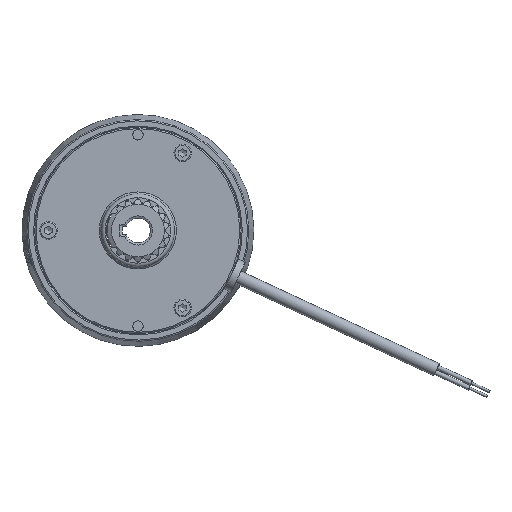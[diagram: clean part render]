
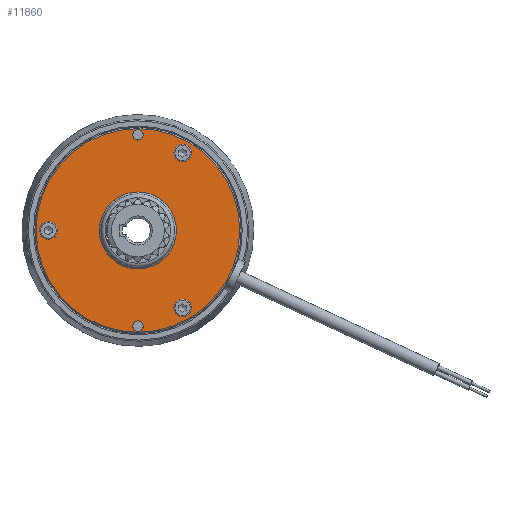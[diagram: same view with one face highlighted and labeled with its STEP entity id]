
A CAD part, left-side view. The second image highlights one B-rep face of the part: STEP entity #11860.
In plain terms, the highlighted planar face has unit normal (-1, 0, 0).
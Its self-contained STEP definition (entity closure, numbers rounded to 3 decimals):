
#181=FACE_BOUND('',#1567,.T.);
#182=FACE_BOUND('',#1568,.T.);
#183=FACE_BOUND('',#1569,.T.);
#184=FACE_BOUND('',#1570,.T.);
#185=FACE_BOUND('',#1571,.T.);
#186=FACE_BOUND('',#1572,.T.);
#454=PLANE('',#12908);
#939=FACE_OUTER_BOUND('',#1566,.T.);
#1566=EDGE_LOOP('',(#9828));
#1567=EDGE_LOOP('',(#9829,#9830));
#1568=EDGE_LOOP('',(#9831,#9832));
#1569=EDGE_LOOP('',(#9833));
#1570=EDGE_LOOP('',(#9834));
#1571=EDGE_LOOP('',(#9835));
#1572=EDGE_LOOP('',(#9836,#9837));
#2367=CIRCLE('',#12512,3.5);
#2368=CIRCLE('',#12513,3.5);
#2381=CIRCLE('',#12540,3.5);
#2382=CIRCLE('',#12541,3.5);
#2596=CIRCLE('',#12909,41.);
#2597=CIRCLE('',#12910,2.1);
#2598=CIRCLE('',#12911,2.1);
#2599=CIRCLE('',#12912,15.5);
#2600=CIRCLE('',#12913,3.5);
#2601=CIRCLE('',#12914,3.5);
#4662=VERTEX_POINT('',#21653);
#4663=VERTEX_POINT('',#21654);
#4689=VERTEX_POINT('',#21745);
#4690=VERTEX_POINT('',#21746);
#5073=VERTEX_POINT('',#25084);
#5074=VERTEX_POINT('',#25086);
#5075=VERTEX_POINT('',#25088);
#5076=VERTEX_POINT('',#25090);
#5077=VERTEX_POINT('',#25092);
#5078=VERTEX_POINT('',#25093);
#6099=EDGE_CURVE('',#4662,#4663,#2367,.T.);
#6100=EDGE_CURVE('',#4663,#4662,#2368,.T.);
#6136=EDGE_CURVE('',#4689,#4690,#2381,.T.);
#6137=EDGE_CURVE('',#4690,#4689,#2382,.T.);
#6713=EDGE_CURVE('',#5073,#5073,#2596,.T.);
#6714=EDGE_CURVE('',#5074,#5074,#2597,.T.);
#6715=EDGE_CURVE('',#5075,#5075,#2598,.T.);
#6716=EDGE_CURVE('',#5076,#5076,#2599,.T.);
#6717=EDGE_CURVE('',#5077,#5078,#2600,.T.);
#6718=EDGE_CURVE('',#5078,#5077,#2601,.T.);
#9828=ORIENTED_EDGE('',*,*,#6713,.F.);
#9829=ORIENTED_EDGE('',*,*,#6099,.T.);
#9830=ORIENTED_EDGE('',*,*,#6100,.T.);
#9831=ORIENTED_EDGE('',*,*,#6136,.T.);
#9832=ORIENTED_EDGE('',*,*,#6137,.T.);
#9833=ORIENTED_EDGE('',*,*,#6714,.T.);
#9834=ORIENTED_EDGE('',*,*,#6715,.T.);
#9835=ORIENTED_EDGE('',*,*,#6716,.T.);
#9836=ORIENTED_EDGE('',*,*,#6717,.T.);
#9837=ORIENTED_EDGE('',*,*,#6718,.T.);
#11860=ADVANCED_FACE('',(#939,#181,#182,#183,#184,#185,#186),#454,.T.);
#12512=AXIS2_PLACEMENT_3D('',#21655,#14475,#14476);
#12513=AXIS2_PLACEMENT_3D('',#21656,#14477,#14478);
#12540=AXIS2_PLACEMENT_3D('',#21747,#14547,#14548);
#12541=AXIS2_PLACEMENT_3D('',#21748,#14549,#14550);
#12908=AXIS2_PLACEMENT_3D('',#25083,#15514,#15515);
#12909=AXIS2_PLACEMENT_3D('',#25085,#15516,#15517);
#12910=AXIS2_PLACEMENT_3D('',#25087,#15518,#15519);
#12911=AXIS2_PLACEMENT_3D('',#25089,#15520,#15521);
#12912=AXIS2_PLACEMENT_3D('',#25091,#15522,#15523);
#12913=AXIS2_PLACEMENT_3D('',#25094,#15524,#15525);
#12914=AXIS2_PLACEMENT_3D('',#25095,#15526,#15527);
#14475=DIRECTION('center_axis',(1.,0.,0.));
#14476=DIRECTION('ref_axis',(0.,0.5,-0.866));
#14477=DIRECTION('center_axis',(1.,0.,0.));
#14478=DIRECTION('ref_axis',(0.,0.5,-0.866));
#14547=DIRECTION('center_axis',(1.,0.,0.));
#14548=DIRECTION('ref_axis',(0.,0.5,-0.866));
#14549=DIRECTION('center_axis',(1.,0.,0.));
#14550=DIRECTION('ref_axis',(0.,0.5,-0.866));
#15514=DIRECTION('center_axis',(-1.,0.,0.));
#15515=DIRECTION('ref_axis',(0.,0.,1.));
#15516=DIRECTION('center_axis',(1.,0.,0.));
#15517=DIRECTION('ref_axis',(0.,-1.,0.));
#15518=DIRECTION('center_axis',(1.,0.,0.));
#15519=DIRECTION('ref_axis',(0.,0.,
-1.));
#15520=DIRECTION('center_axis',(1.,0.,0.));
#15521=DIRECTION('ref_axis',(0.,0.,
-1.));
#15522=DIRECTION('center_axis',(1.,0.,0.));
#15523=DIRECTION('ref_axis',(0.,0.,1.));
#15524=DIRECTION('center_axis',(1.,0.,0.));
#15525=DIRECTION('ref_axis',(0.,0.5,0.866));
#15526=DIRECTION('center_axis',(1.,0.,0.));
#15527=DIRECTION('ref_axis',(0.,0.5,0.866));
#21653=CARTESIAN_POINT('',(-18.7,-16.25,-34.208));
#21654=CARTESIAN_POINT('',(-18.7,-19.75,-28.146));
#21655=CARTESIAN_POINT('Origin',(-18.7,-18.,-31.177));
#21656=CARTESIAN_POINT('Origin',(-18.7,-18.,-31.177));
#21745=CARTESIAN_POINT('',(-18.7,-16.25,28.146));
#21746=CARTESIAN_POINT('',(-18.7,-19.75,34.208));
#21747=CARTESIAN_POINT('Origin',(-18.7,-18.,31.177));
#21748=CARTESIAN_POINT('Origin',(-18.7,-18.,31.177));
#25083=CARTESIAN_POINT('Origin',(-18.7,20.75,0.));
#25084=CARTESIAN_POINT('',(-18.7,41.,0.));
#25085=CARTESIAN_POINT('Origin',(-18.7,0.,0.));
#25086=CARTESIAN_POINT('',(-18.7,0.,40.6));
#25087=CARTESIAN_POINT('Origin',(-18.7,0.,38.5));
#25088=CARTESIAN_POINT('',(-18.7,0.,-36.4));
#25089=CARTESIAN_POINT('Origin',(-18.7,0.,-38.5));
#25090=CARTESIAN_POINT('',(-18.7,0.,-15.5));
#25091=CARTESIAN_POINT('Origin',(-18.7,0.,0.));
#25092=CARTESIAN_POINT('',(-18.7,37.75,3.031));
#25093=CARTESIAN_POINT('',(-18.7,34.25,-3.031));
#25094=CARTESIAN_POINT('Origin',(-18.7,36.,0.));
#25095=CARTESIAN_POINT('Origin',(-18.7,36.,0.));
